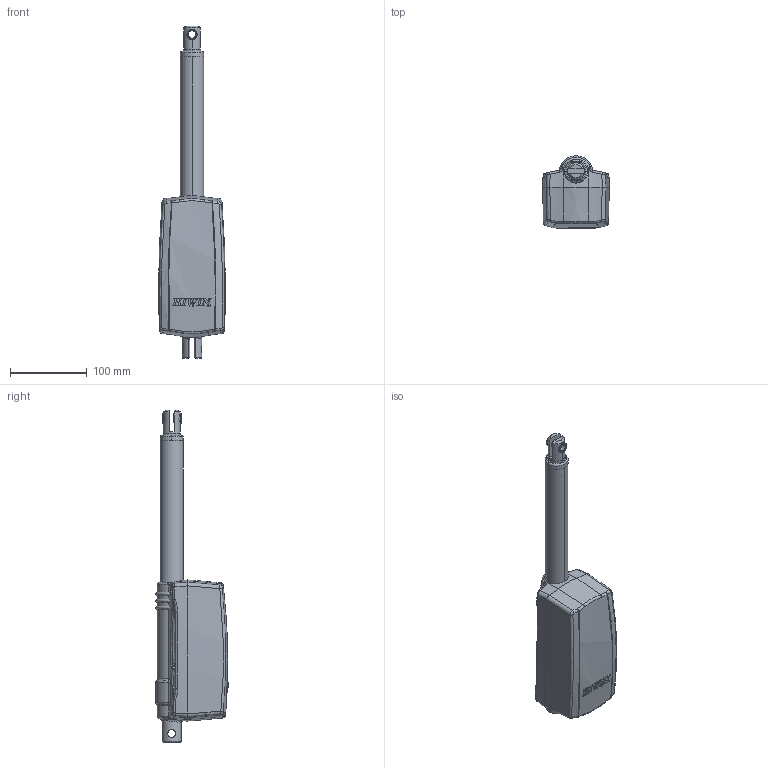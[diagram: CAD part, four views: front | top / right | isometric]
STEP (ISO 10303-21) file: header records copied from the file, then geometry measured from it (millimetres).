
FILE_DESCRIPTION((''),'2;1');
FILE_NAME('LAN4-S100_ASM','2007-07-12T',('amyliao'),(''),'PRO/ENGINEER BY PARAMETRIC TECHNOLOGY CORPORATION, 2003210','PRO/ENGINEER BY PARAMETRIC TECHNOLOGY CORPORATION, 2003210','');
FILE_SCHEMA(('CONFIG_CONTROL_DESIGN'));
Length unit declared in the file: millimetre
Products named in the file (9): COVER02; 04; 03; 01; 02; 05; N4-OUT-TUBE_ASM; COVER01; LAN4-S100_ASM
Assembly tree (9 placements, depth 3):
  LAN4-S100_ASM
    COVER02
    N4-OUT-TUBE_ASM
      04
      03
      01
      02
      05  x2
    COVER01
Bounding box: 86.98 x 94.2 x 432 mm (x, y, z)
Volume: 397000.2 mm3; surface area: 228010.2 mm2
Topology: 8 solids, 8 shells, 623 faces, 1609 edges, 1024 vertices
Faces by surface type: plane 213, cylinder 128, bspline 112, extrusion 92, cone 43, torus 19, sphere 16
Entity records: 25087 total; most frequent: CARTESIAN_POINT 11594, ORIENTED_EDGE 3174, DIRECTION 2073, EDGE_CURVE 1587, VERTEX_POINT 1010, B_SPLINE_CURVE_WITH_KNOTS 872, AXIS2_PLACEMENT_3D 742, EDGE_LOOP 661
